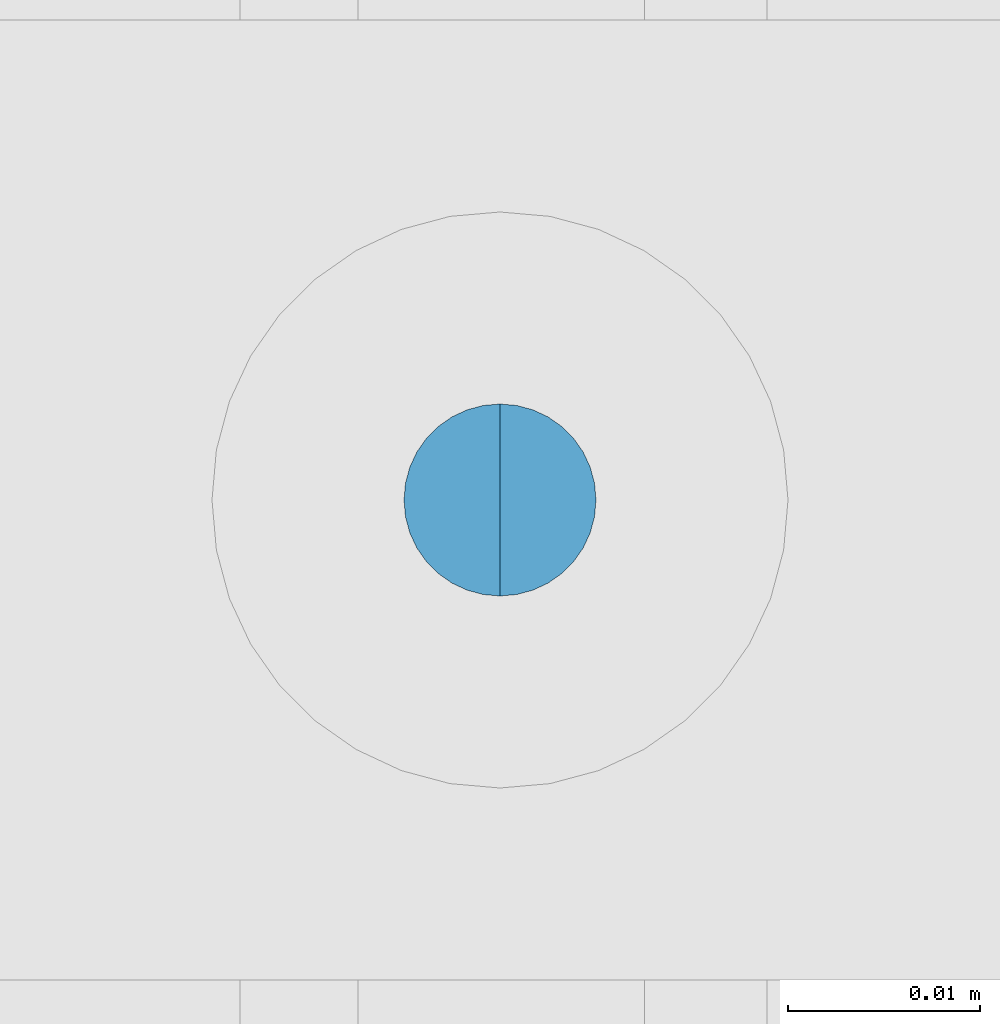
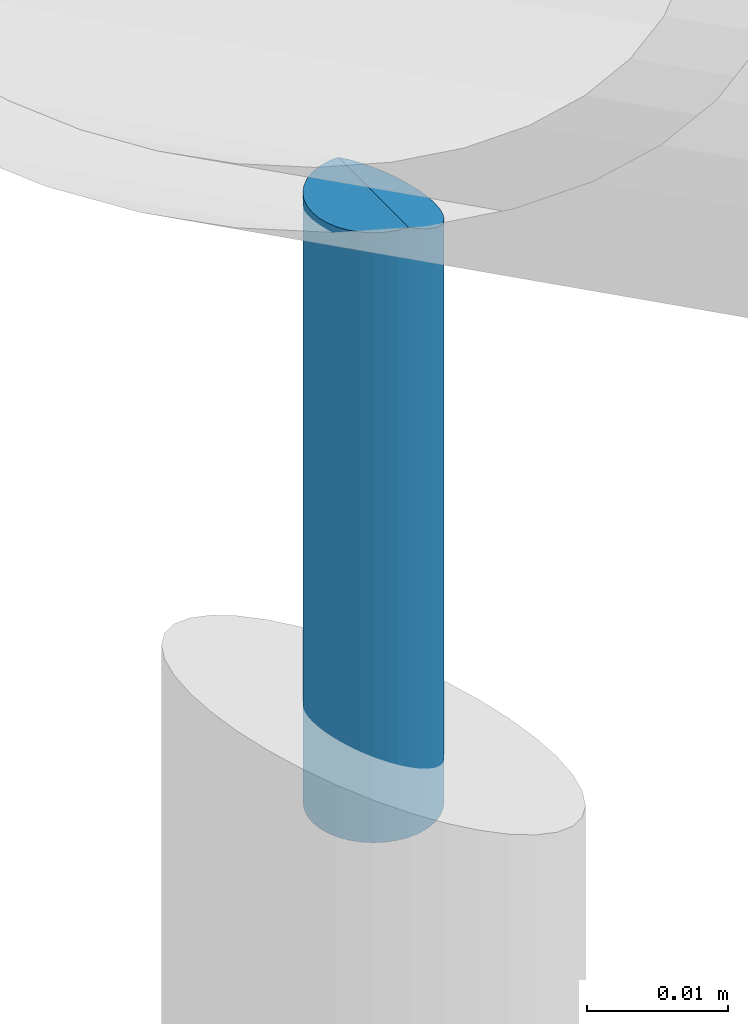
# One storey, part 153 of 418: 1 building element part, 2 elements without a shape of their own.
"""IFC2X3 building model written with IfcOpenShell, lengths in millimetres."""

from ifc_helpers import new_model, entity, si_unit, converted_unit, derived_unit, money_unit, direction, frame, origin_with_axes, place, context, subcontext, project, spatial, faceted_brep, material, type_object, element, aggregate, save


model = new_model("IFC2X3")

# Units and contexts
model_context = context("Model", 3, precision=0.01, world=origin_with_axes(), true_north=direction((0.0, 1.0)))
body_context = subcontext(model_context, "Body", "Model", "MODEL_VIEW")
ifc_project = project(units=[si_unit("LENGTHUNIT", "METRE", prefix="MILLI"), si_unit("AREAUNIT", "SQUARE_METRE"), si_unit("VOLUMEUNIT", "CUBIC_METRE"), converted_unit("PLANEANGLEUNIT", "DEGREE", entity("IfcPlaneAngleMeasure", 0.0174532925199), si_unit("PLANEANGLEUNIT", "RADIAN"), dimensions=[0, 0, 0, 0, 0, 0, 0]), si_unit("SOLIDANGLEUNIT", "STERADIAN"), money_unit("EUR"), converted_unit("TIMEUNIT", "Year", entity("IfcTimeMeasure", 31556926.0), si_unit("TIMEUNIT", "SECOND"), dimensions=[0, 0, 1, 0, 0, 0, 0]), si_unit("MASSUNIT", "GRAM", prefix="KILO"), si_unit("THERMODYNAMICTEMPERATUREUNIT", "DEGREE_CELSIUS"), si_unit("LUMINOUSINTENSITYUNIT", "LUMEN"), si_unit("ENERGYUNIT", "JOULE", prefix="MEGA"), derived_unit("THERMALCONDUCTANCEUNIT", [(si_unit("POWERUNIT", "WATT"), 1), (si_unit("LENGTHUNIT", "METRE"), -1), (si_unit("THERMODYNAMICTEMPERATUREUNIT", "KELVIN"), -1)]), derived_unit("SPECIFICHEATCAPACITYUNIT", [(si_unit("ENERGYUNIT", "JOULE"), 1), (si_unit("MASSUNIT", "GRAM", prefix="KILO"), -1), (si_unit("THERMODYNAMICTEMPERATUREUNIT", "KELVIN"), -1)]), derived_unit("MASSDENSITYUNIT", [(si_unit("MASSUNIT", "GRAM", prefix="KILO"), 1), (si_unit("VOLUMEUNIT", "CUBIC_METRE"), -1)])], contexts=[model_context])

# Site, building, storey
site_placement = place(None, origin_with_axes())
site = spatial("IfcSite", under=ifc_project, at=site_placement, Name="Paldiski mnt 245/1, Tallinn, Harjumaa", CompositionType="COMPLEX")
building_placement = place(site_placement, origin_with_axes())
building = spatial("IfcBuilding", under=site, at=building_placement, Name="RKAS Hoone üldnimetus (kasutust iseloomustav) -> IFC Project Manager -> SOLIBRI", CompositionType="ELEMENT")
storey_placement = place(building_placement, origin_with_axes())
storey = spatial("IfcBuildingStorey", under=building, at=storey_placement, Name="Esimene korrus", CompositionType="ELEMENT", Elevation=0.0)

# Proxies, building element part
building_element_proxy_type_1 = type_object("IfcBuildingElementProxyType", Name="Railing Type", PredefinedType="NOTDEFINED")
proxy_1_placement = place(storey_placement, frame((-46765.0, 8168.75490532, -321.218687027), z_axis=(0.0, 0.0, 1.0), x_axis=(1.0, 0.0, 0.0)))
proxy_1 = element("IfcBuildingElementProxy", 1, at=proxy_1_placement, inside=storey, type_object=building_element_proxy_type_1, Name="Trepipiire")
building_element_proxy_type_2 = type_object("IfcBuildingElementProxyType", Name="IfcBuildingElementProxy", PredefinedType="NOTDEFINED")
proxy_2_placement = place(proxy_1_placement, frame((1814.75833535, 0.0, 944.098300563), z_axis=(0.0, 0.0, 1.0), x_axis=(1.0, 0.0, 0.0)))
proxy_2 = element("IfcBuildingElementProxy", 2, at=proxy_2_placement, type_object=building_element_proxy_type_2, Name="ÜL PIIRE - 001")
aggregate(proxy_1, [proxy_2])
ifc_material = material(Name="Teras - Konstruktsioon")
building_element_part_placement = place(proxy_2_placement, origin_with_axes())
building_element_part = element("IfcBuildingElementPart", 3, at=building_element_part_placement, material=ifc_material, Name="Teras - Konstruktsioon", context=body_context, shape_type="Brep", body=[
    faceted_brep([(-170.792563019, -1.71010071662, 175.118648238), (-170.424226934, -2.49999999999, 175.118648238), (-170.424226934, -2.49999999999, 227.78633928), (-170.792563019, -1.71010071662, 227.78633928), (-171.01813868, -0.868240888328, 175.118648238), (-171.094099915, 0.0, 175.118648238), (-171.01813868, 0.868240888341, 175.118648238), (-170.792563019, 1.71010071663, 175.118648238), (-170.424226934, 2.50000000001, 175.118648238), (-169.92432213, 3.21393804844, 175.118648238), (-169.308037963, 3.8302222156, 175.118648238), (-168.594099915, 4.33012701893, 175.118648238), (-167.804200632, 4.69846310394, 175.118648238), (-166.962340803, 4.92403876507, 175.118648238), (-166.094099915, 5.00000000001, 175.118648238), (-165.225859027, 4.92403876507, 175.118648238), (-164.383999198, 4.69846310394, 175.118648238), (-163.594099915, 4.33012701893, 175.118648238), (-162.880161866, 3.8302222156, 175.118648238), (-162.263877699, 3.21393804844, 175.118648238), (-161.763972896, 2.50000000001, 175.118648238), (-161.395636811, 1.71010071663, 175.118648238), (-161.17006115, 0.868240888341, 175.118648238), (-161.094099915, 0.0, 175.118648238), (-161.17006115, -0.868240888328, 175.118648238), (-161.395636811, -1.71010071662, 175.118648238), (-161.763972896, -2.49999999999, 175.118648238), (-162.263877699, -3.21393804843, 175.118648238), (-162.880161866, -3.83022221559, 175.118648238), (-163.594099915, -4.33012701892, 175.118648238), (-164.383999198, -4.69846310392, 175.118648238), (-165.225859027, -4.92403876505, 175.118648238), (-166.094099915, -4.99999999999, 175.118648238), (-166.962340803, -4.92403876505, 175.118648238), (-167.804200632, -4.69846310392, 175.118648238), (-168.594099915, -4.33012701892, 175.118648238), (-169.308037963, -3.83022221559, 175.118648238), (-169.92432213, -3.21393804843, 175.118648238), (-169.92432213, -3.21393804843, 227.78633928), (-171.01813868, -0.868240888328, 227.78633928), (-169.308037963, -3.83022221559, 227.78633928), (-168.594099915, -4.33012701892, 227.78633928), (-167.804200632, -4.69846310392, 227.78633928), (-166.962340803, -4.92403876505, 227.78633928), (-166.094099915, -4.99999999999, 227.78633928), (-166.094099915, 5.00000000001, 227.78633928), (-166.962340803, 4.92403876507, 227.78633928), (-167.804200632, 4.69846310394, 227.78633928), (-168.594099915, 4.33012701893, 227.78633928), (-169.308037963, 3.8302222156, 227.78633928), (-169.92432213, 3.21393804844, 227.78633928), (-170.424226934, 2.50000000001, 227.78633928), (-170.792563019, 1.71010071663, 227.78633928), (-171.01813868, 0.868240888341, 227.78633928), (-171.094099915, 0.0, 227.78633928), (-165.225859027, 4.92403876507, 227.323099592), (-164.383999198, 4.69846310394, 226.873935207), (-163.594099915, 4.33012701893, 226.452493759), (-162.880161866, 3.8302222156, 226.071580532), (-162.263877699, 3.21393804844, 225.742769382), (-161.763972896, 2.50000000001, 225.476051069), (-161.395636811, 1.71010071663, 225.279529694), (-161.17006115, 0.868240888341, 225.15917646), (-161.094099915, 0.0, 225.118648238), (-161.17006115, -0.868240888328, 225.15917646), (-161.395636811, -1.71010071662, 225.279529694), (-161.763972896, -2.49999999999, 225.476051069), (-162.263877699, -3.21393804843, 225.742769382), (-162.880161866, -3.83022221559, 226.071580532), (-163.594099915, -4.33012701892, 226.452493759), (-164.383999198, -4.69846310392, 226.873935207), (-165.225859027, -4.92403876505, 227.323099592)], [[[0, 1, 2, 3]], [[0, 4, 5, 6, 7, 8, 9, 10, 11, 12, 13, 14, 15, 16, 17, 18, 19, 20, 21, 22, 23, 24, 25, 26, 27, 28, 29, 30, 31, 32, 33, 34, 35, 36, 37, 1]], [[1, 37, 38, 2]], [[39, 3, 2, 38, 40, 41, 42, 43, 44, 45, 46, 47, 48, 49, 50, 51, 52, 53, 54]], [[4, 0, 3, 39]], [[5, 4, 39, 54]], [[6, 5, 54, 53]], [[7, 6, 53, 52]], [[7, 52, 51, 8]], [[9, 8, 51, 50]], [[10, 9, 50, 49]], [[11, 10, 49, 48]], [[12, 11, 48, 47]], [[13, 12, 47, 46]], [[14, 13, 46, 45]], [[15, 14, 45, 55]], [[56, 16, 15, 55]], [[17, 16, 56, 57]], [[18, 17, 57, 58]], [[18, 58, 59, 19]], [[20, 19, 59, 60]], [[21, 20, 60, 61]], [[22, 21, 61, 62]], [[23, 22, 62, 63]], [[24, 23, 63, 64]], [[65, 25, 24, 64]], [[26, 25, 65, 66]], [[27, 26, 66, 67]], [[28, 27, 67, 68]], [[29, 28, 68, 69]], [[30, 29, 69, 70]], [[31, 30, 70, 71]], [[32, 31, 71, 44]], [[33, 32, 44, 43]], [[34, 33, 43, 42]], [[35, 34, 42, 41]], [[35, 41, 40, 36]], [[37, 36, 40, 38]], [[70, 69, 68, 67, 66, 65, 64, 63, 62, 61, 60, 59, 58, 57, 56, 55, 45, 44, 71]]]),
])
aggregate(proxy_2, [building_element_part])

save(model, "model.ifc")
